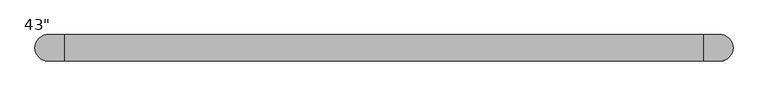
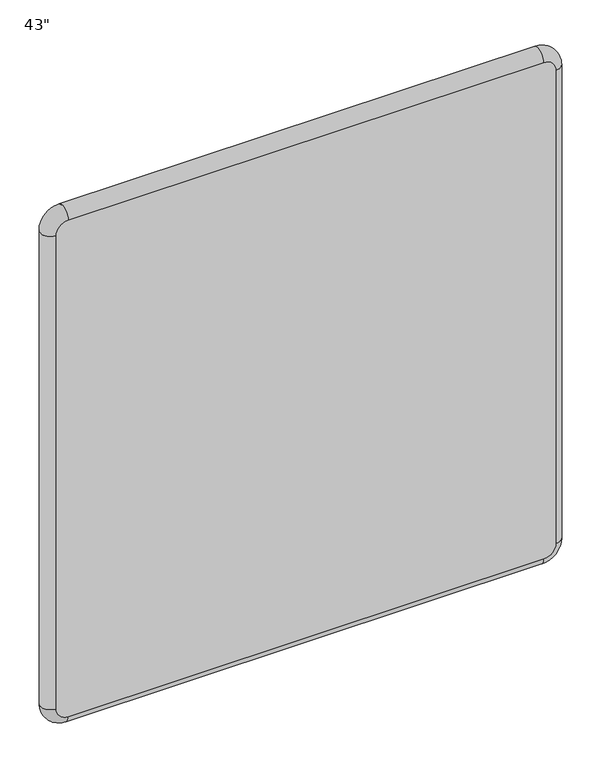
"""IFC4 building model written with IfcOpenShell, lengths in millimetres: furniture geometry."""

from ifc_helpers import new_model, si_unit, point, frame, origin, place, context, project, spatial, circle_curve, ellipse_curve, trimmed, source, transform, mapped, element, save
from ifc_brep_helpers import plane_surface, cylinder_surface, revolved_surface, advanced_brep


def furniture_51609133(model_context):
    return source(origin(), model_context, "Body", "AdvancedBrep", [
        advanced_brep(
        [(499.9348317, 41.275, 1165.225), (525.4625, 41.275, 1139.6973317), (525.4625, 41.275, 89.0276683), (499.9348317, 41.275, 63.5), (-499.9348317, 41.275, 63.5), (-525.4625, 41.275, 89.0276683), (-525.4625, 41.275, 1139.6973317), (-499.9348317, 41.275, 1165.225), (525.4625, 0.0, 1139.6973183), (499.9348317, 0.0, 1165.225), (-499.9348278, 0.0, 1165.225), (-525.4625, 0.0, 1139.6973317), (-525.4625, 0.0, 89.0276687), (-499.9348317, 0.0, 63.5), (499.9348065, 0.0, 63.5), (525.4625, 0.0, 89.0276683)],
        [
            (0, 1, circle_curve(frame((499.9348317, 41.275, 1139.6973317), z_axis=(0.0, 1.0, 0.0), x_axis=(0.0, 0.0, 1.0)), 25.5276683)),
            (1, 2),
            (2, 3, circle_curve(frame((499.9348317, 41.275, 89.0276683), z_axis=(0.0, 1.0, 0.0), x_axis=(1.0, 0.0, 0.0)), 25.5276683)),
            (3, 4),
            (4, 5, circle_curve(frame((-499.9348317, 41.275, 89.0276683), z_axis=(0.0, 1.0, 0.0), x_axis=(0.0, 0.0, -1.0)), 25.5276683)),
            (5, 6),
            (6, 7, circle_curve(frame((-499.9348317, 41.275, 1139.6973317), z_axis=(0.0, 1.0, 0.0), x_axis=(-1.0, 0.0, 0.0)), 25.5276683)),
            (7, 0),
            (8, 9, circle_curve(frame((499.9348317, 0.0, 1139.6973317), z_axis=(0.0, -1.0, 0.0), x_axis=(0.0, 0.0, 1.0)), 25.5276683)),
            (9, 10),
            (10, 11, circle_curve(frame((-499.9348317, 0.0, 1139.6973317), z_axis=(0.0, -1.0, 0.0), x_axis=(-1.0, 0.0, 0.0)), 25.5276683)),
            (11, 12),
            (12, 13, circle_curve(frame((-499.9348317, 0.0, 89.0276683), z_axis=(0.0, -1.0, 0.0), x_axis=(0.0, 0.0, -1.0)), 25.5276683)),
            (13, 14),
            (14, 15, circle_curve(frame((499.9348317, 0.0, 89.0276683), z_axis=(0.0, -1.0, 0.0), x_axis=(1.0, 0.0, 0.0)), 25.5276683)),
            (15, 8),
            (0, 9, circle_curve(frame((499.9348317, 20.6375, 1165.225), z_axis=(1.0, 0.0, 0.0), x_axis=(0.0, 0.0, 1.0)), 20.6375)),
            (8, 1, circle_curve(frame((525.4625, 20.6375, 1139.6973317), z_axis=(0.0, 0.0, 1.0), x_axis=(1.0, 0.0, 0.0)), 20.6375)),
            (15, 2, circle_curve(frame((525.4625, 20.6375, 89.0276683), z_axis=(0.0, 0.0, 1.0), x_axis=(1.0, 0.0, 0.0)), 20.6375)),
            (14, 3, circle_curve(frame((499.9348317, 20.6375, 63.5), z_axis=(1.0, 0.0, 0.0), x_axis=(0.0, 0.0, -1.0)), 20.6375)),
            (13, 4, circle_curve(frame((-499.9348317, 20.6375, 63.5), z_axis=(1.0, 0.0, 0.0), x_axis=(0.0, 0.0, -1.0)), 20.6375)),
            (12, 5, circle_curve(frame((-525.4625, 20.6375, 89.0276683), z_axis=(0.0, 0.0, -1.0), x_axis=(-1.0, 0.0, 0.0)), 20.6375)),
            (11, 6, circle_curve(frame((-525.4625, 20.6375, 1139.6973317), z_axis=(0.0, 0.0, -1.0), x_axis=(-1.0, 0.0, 0.0)), 20.6375)),
            (10, 7, circle_curve(frame((-499.9348317, 20.6375, 1165.225), z_axis=(-1.0, 0.0, 0.0), x_axis=(0.0, 0.0, 1.0)), 20.6375)),
        ],
        [
            plane_surface(frame((-499.9348317, 41.275, 1165.225), z_axis=(0.0, 1.0, 0.0), x_axis=(1.0, 0.0, 0.0))),
            plane_surface(frame((-499.9348317, 0.0, 1165.225), z_axis=(0.0, -1.0, 0.0), x_axis=(-1.0, 0.0, 0.0))),
            revolved_surface(trimmed(ellipse_curve(frame((499.9348317, 20.6375, 1165.225), z_axis=(-1.0, 0.0, 0.0), x_axis=(0.0, 0.0, 1.0)), 20.6375, 20.6375), [point((499.9348317, 0.0, 1165.225))], [point((499.9348317, 41.275, 1165.225))], True, "CARTESIAN"), (499.9348317, 0.0, 1139.6973317), (0.0, 1.0, 0.0)),
            cylinder_surface(frame((525.4625, 20.6375, 1139.6973317), z_axis=(0.0, 0.0, 1.0), x_axis=(1.0, 0.0, 0.0)), 20.6375),
            revolved_surface(trimmed(ellipse_curve(frame((525.4625, 20.6375, 89.0276683), z_axis=(0.0, 0.0, 1.0), x_axis=(1.0, 0.0, 0.0)), 20.6375, 20.6375), [point((525.4625, 0.0, 89.0276683))], [point((525.4625, 41.275, 89.0276683))], True, "CARTESIAN"), (499.9348317, 0.0, 89.0276683), (0.0, 1.0, 0.0)),
            cylinder_surface(frame((499.9348317, 20.6375, 63.5), z_axis=(1.0, 0.0, 0.0), x_axis=(0.0, 0.0, -1.0)), 20.6375),
            revolved_surface(trimmed(ellipse_curve(frame((-499.9348317, 20.6375, 63.5), z_axis=(1.0, 0.0, 0.0), x_axis=(0.0, 0.0, -1.0)), 20.6375, 20.6375), [point((-499.9348317, 0.0, 63.5))], [point((-499.9348317, 41.275, 63.5))], True, "CARTESIAN"), (-499.9348317, 0.0, 89.0276683), (0.0, 1.0, 0.0)),
            cylinder_surface(frame((-525.4625, 20.6375, 89.0276683), z_axis=(0.0, 0.0, -1.0), x_axis=(-1.0, 0.0, 0.0)), 20.6375),
            revolved_surface(trimmed(ellipse_curve(frame((-525.4625, 20.6375, 1139.6973317), z_axis=(0.0, 0.0, -1.0), x_axis=(-1.0, 0.0, 0.0)), 20.6375, 20.6375), [point((-525.4625, 0.0, 1139.6973317))], [point((-525.4625, 41.275, 1139.6973317))], True, "CARTESIAN"), (-499.9348317, 0.0, 1139.6973317), (0.0, 1.0, 0.0)),
            cylinder_surface(frame((-499.9348317, 20.6375, 1165.225), z_axis=(-1.0, 0.0, 0.0), x_axis=(0.0, 0.0, 1.0)), 20.6375),
        ],
        [
            (0, [[1, 2, 3, 4, 5, 6, 7, 8]]),
            (1, [[9, 10, 11, 12, 13, 14, 15, 16]]),
            (2, [[17, -9, 18, -1]]),
            (3, [[-18, -16, 19, -2]]),
            (4, [[-19, -15, 20, -3]]),
            (5, [[-20, -14, 21, -4]]),
            (6, [[-21, -13, 22, -5]]),
            (7, [[-22, -12, 23, -6]]),
            (8, [[-23, -11, 24, -7]]),
            (9, [[-17, -8, -24, -10]]),
        ],
    ),
    ])


if __name__ == "__main__":
    model = new_model("IFC4")
    model_context = context("Model", 3, world=origin())
    ifc_project = project(units=[si_unit("LENGTHUNIT", "METRE", prefix="MILLI")], contexts=[model_context])
    site = spatial("IfcSite", under=ifc_project)
    building = spatial("IfcBuilding", under=site)
    placement = place(None, origin())
    furniture_shape = furniture_51609133(model_context)
    element("IfcFurniture", 1, ObjectType="Stylex - Yoom Screen : 43\"", at=placement, inside=building, context=model_context, shape_type="MappedRepresentation", body=[
        mapped(furniture_shape, transform((0.0, 0.0, 0.0), x_axis=(1.0, 0.0, 0.0), y_axis=(0.0, 1.0, 0.0), z_axis=(0.0, 0.0, 1.0))),
    ])
    save(model, "model.ifc")
